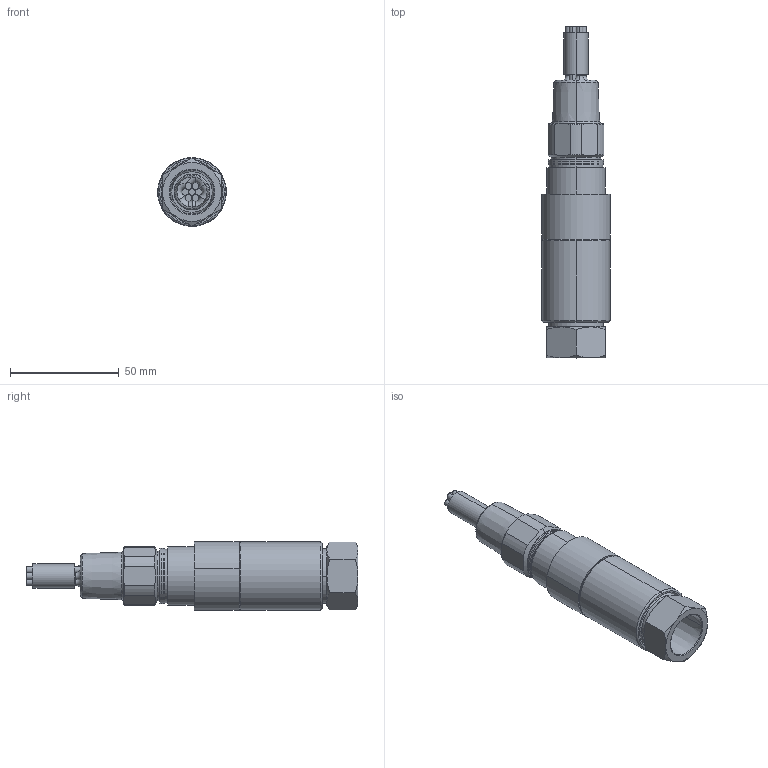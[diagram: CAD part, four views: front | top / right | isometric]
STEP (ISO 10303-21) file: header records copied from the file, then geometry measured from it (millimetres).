
FILE_DESCRIPTION (( 'STEP AP214' ), '1' );
FILE_NAME ('12SXXN2A_G.STEP', '2025-04-01T17:41:05', ( '' ), ( '' ), 'SwSTEP 2.0', 'SolidWorks 2023', '' );
FILE_SCHEMA (( 'AUTOMOTIVE_DESIGN' ));
Length unit declared in the file: inch
Products named in the file (1): 12SXXN2A_G
Bounding box: 31.54 x 152.34 x 31.54 mm (x, y, z)
Surface area: 20420.1 mm2 (no closed solid volume)
Topology: 0 solids, 9 shells, 138 faces, 330 edges, 210 vertices
Faces by surface type: cylinder 43, cone 39, plane 36, torus 16, bspline 4
Entity records: 4508 total; most frequent: CARTESIAN_POINT 1292, DIRECTION 714, ORIENTED_EDGE 630, EDGE_CURVE 330, AXIS2_PLACEMENT_3D 316, VERTEX_POINT 210, CIRCLE 181, EDGE_LOOP 155
